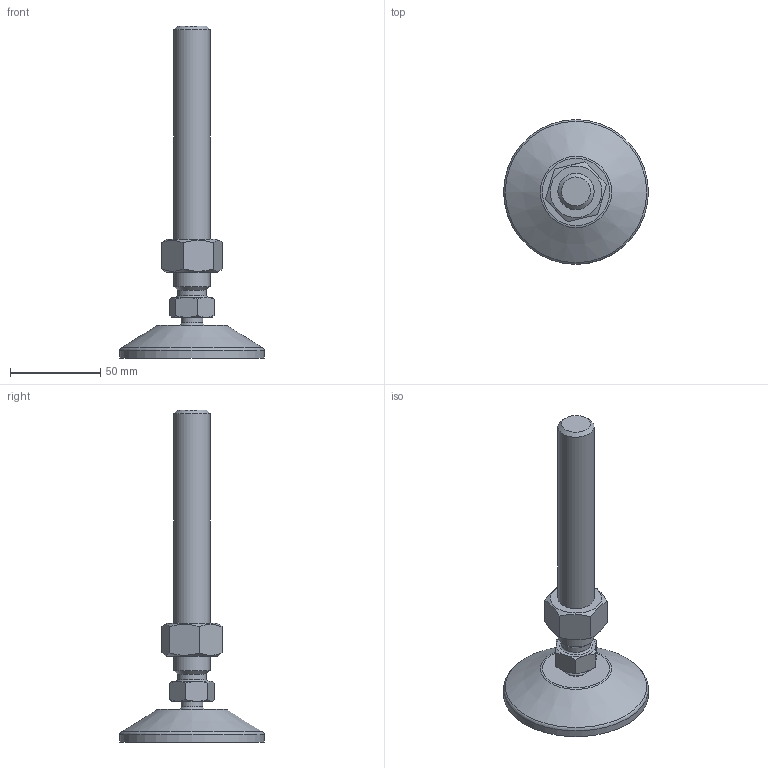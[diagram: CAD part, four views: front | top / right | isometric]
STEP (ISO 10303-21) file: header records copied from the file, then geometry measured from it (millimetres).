
FILE_DESCRIPTION(('STEP AP203'), '1');
FILE_NAME('栖闉罻', '', ('UNSPECIFIED'), ('UNSPECIFIED'), 'C3D Converter', 'C3D Toolkit', '');
FILE_SCHEMA(('CONFIG_CONTROL_DESIGN'));
Length unit declared in the file: millimetre
Products named in the file (4): A00020.120150; A00015.1080
Assembly tree (3 placements, depth 3):
  (unnamed)
    A00020.120150
      (unnamed)
    A00015.1080
Bounding box: 80 x 80 x 183.5 mm (x, y, z)
Volume: 98254.1 mm3; surface area: 31861.7 mm2
Topology: 3 solids, 3 shells, 190 faces, 480 edges, 317 vertices
Faces by surface type: plane 95, cylinder 58, cone 21, torus 14, sphere 2
Full cylindrical faces by diameter (mm): 4 x8, 12 x1, 14.3 x1, 15 x2, 15.5 x1, 16 x1, 17.294 x1, 20 x1, 69.3 x1, 80 x1
Entity records: 9514 total; most frequent: CARTESIAN_POINT 3336, DIRECTION 944, ORIENTED_EDGE 884, EDGE_CURVE 442, AXIS2_PLACEMENT_3D 378, VERTEX_POINT 315, EDGE_LOOP 247, FACE_BOUND 207
